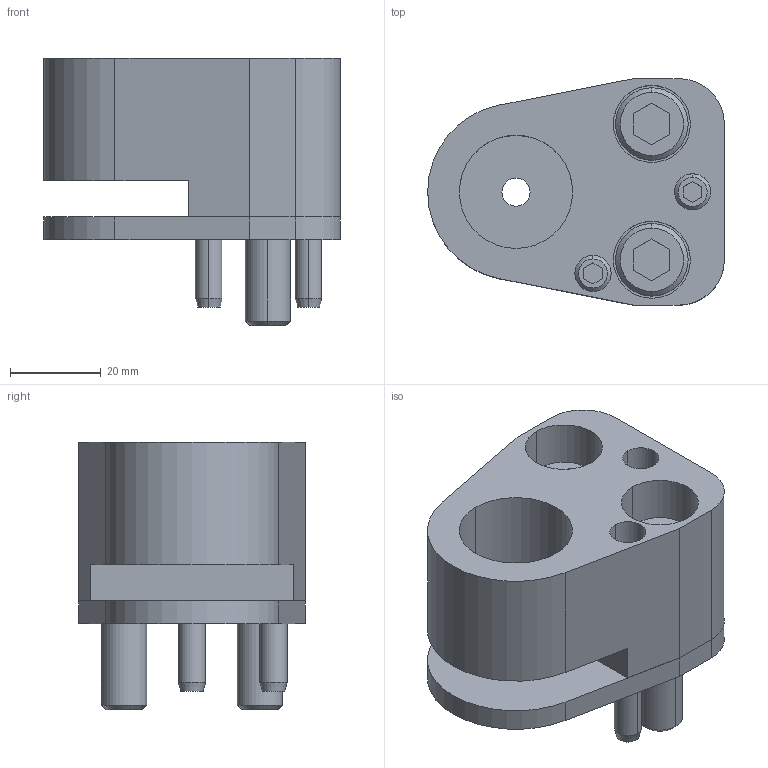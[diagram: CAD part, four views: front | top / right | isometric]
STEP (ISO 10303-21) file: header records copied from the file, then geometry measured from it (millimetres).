
FILE_DESCRIPTION(/* description */ (''),/* implementation_level */ '2;1');
FILE_NAME(/* name */ '3d_hap-fp25_02776_r00.stp',/* time_stamp */ '2011-01-10T14:14:57+09:00',/* author */ ('MISUMI'),/* organization */ (''),/* preprocessor_version */ 'ST-DEVELOPER v11',/* originating_system */ 'UGS - NX 5.0',/* authorisation */ '');
FILE_SCHEMA (('CONFIG_CONTROL_DESIGN'));
Length unit declared in the file: millimetre
Products named in the file (1): 3d_hap-fp25_02776_r00
Bounding box: 65.5 x 50 x 59 mm (x, y, z)
Volume: 81521.9 mm3; surface area: 30363.8 mm2
Topology: 8 solids, 8 shells, 156 faces, 356 edges, 229 vertices
Faces by surface type: plane 70, cylinder 60, cone 26
Entity records: 4562 total; most frequent: DIRECTION 812, CARTESIAN_POINT 795, ORIENTED_EDGE 712, EDGE_CURVE 356, AXIS2_PLACEMENT_3D 304, VERTEX_POINT 229, LINE 204, VECTOR 204
